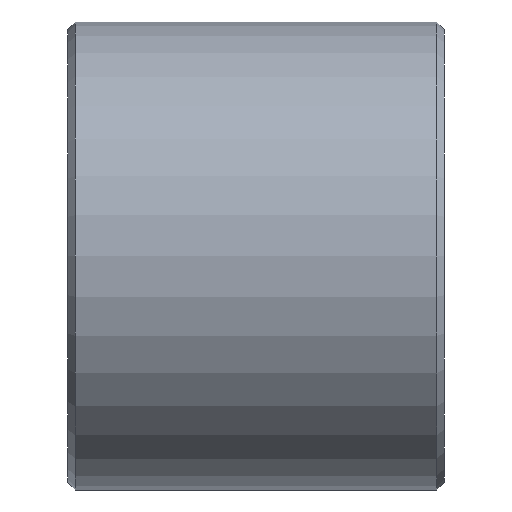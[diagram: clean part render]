
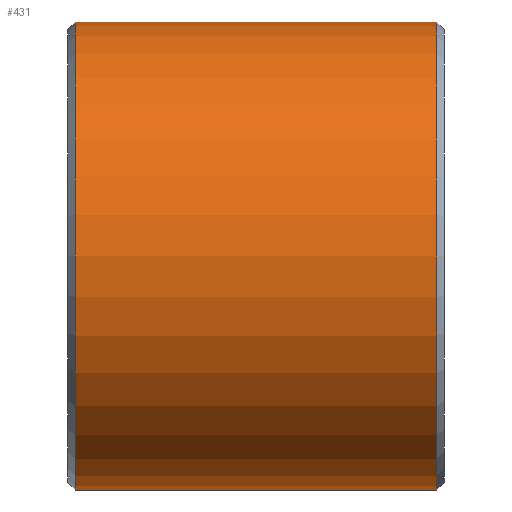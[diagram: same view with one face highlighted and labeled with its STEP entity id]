
A CAD part, left-side view. The second image highlights one B-rep face of the part: STEP entity #431.
In plain terms, the highlighted cylindrical face has radius 11.836 mm (diameter 23.673 mm), a full revolution.
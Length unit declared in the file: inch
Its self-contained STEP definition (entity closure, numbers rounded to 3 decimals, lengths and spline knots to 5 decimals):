
#19=FACE_BOUND('',#86,.T.);
#22=CYLINDRICAL_SURFACE('',#486,0.466);
#32=CIRCLE('',#484,0.466);
#33=CIRCLE('',#485,0.466);
#34=CIRCLE('',#487,0.466);
#35=CIRCLE('',#488,0.466);
#57=FACE_OUTER_BOUND('',#85,.T.);
#85=EDGE_LOOP('',(#337,#338,#339,#340,#341,#342));
#86=EDGE_LOOP('',(#343,#344,#345,#346,#347,#348));
#103=LINE('',#648,#143);
#112=LINE('',#671,#152);
#118=LINE('',#706,#158);
#143=VECTOR('',#515,0.3937);
#152=VECTOR('',#538,0.3937);
#158=VECTOR('',#580,0.466);
#180=ELLIPSE('',#460,0.53809,0.466);
#181=ELLIPSE('',#463,0.53809,0.466);
#182=ELLIPSE('',#465,0.53809,0.466);
#183=ELLIPSE('',#467,0.53809,0.466);
#184=VERTEX_POINT('',#638);
#185=VERTEX_POINT('',#639);
#188=VERTEX_POINT('',#647);
#190=VERTEX_POINT('',#653);
#192=VERTEX_POINT('',#659);
#194=VERTEX_POINT('',#665);
#204=VERTEX_POINT('',#699);
#205=VERTEX_POINT('',#701);
#206=VERTEX_POINT('',#705);
#207=VERTEX_POINT('',#707);
#223=EDGE_CURVE('',#184,#185,#180,.T.);
#227=EDGE_CURVE('',#185,#188,#103,.T.);
#230=EDGE_CURVE('',#188,#190,#181,.T.);
#233=EDGE_CURVE('',#190,#192,#182,.T.);
#236=EDGE_CURVE('',#194,#184,#183,.T.);
#239=EDGE_CURVE('',#192,#194,#112,.T.);
#253=EDGE_CURVE('',#204,#205,#32,.T.);
#254=EDGE_CURVE('',#205,#204,#33,.T.);
#255=EDGE_CURVE('',#205,#206,#118,.T.);
#256=EDGE_CURVE('',#207,#206,#34,.T.);
#257=EDGE_CURVE('',#206,#207,#35,.T.);
#337=ORIENTED_EDGE('',*,*,#253,.F.);
#338=ORIENTED_EDGE('',*,*,#254,.F.);
#339=ORIENTED_EDGE('',*,*,#255,.T.);
#340=ORIENTED_EDGE('',*,*,#256,.F.);
#341=ORIENTED_EDGE('',*,*,#257,.F.);
#342=ORIENTED_EDGE('',*,*,#255,.F.);
#343=ORIENTED_EDGE('',*,*,#233,.T.);
#344=ORIENTED_EDGE('',*,*,#239,.T.);
#345=ORIENTED_EDGE('',*,*,#236,.T.);
#346=ORIENTED_EDGE('',*,*,#223,.T.);
#347=ORIENTED_EDGE('',*,*,#227,.T.);
#348=ORIENTED_EDGE('',*,*,#230,.T.);
#431=ADVANCED_FACE('',(#57,#19),#22,.T.);
#460=AXIS2_PLACEMENT_3D('',#640,#508,#509);
#463=AXIS2_PLACEMENT_3D('',#654,#520,#521);
#465=AXIS2_PLACEMENT_3D('',#660,#526,#527);
#467=AXIS2_PLACEMENT_3D('',#666,#532,#533);
#484=AXIS2_PLACEMENT_3D('',#702,#574,#575);
#485=AXIS2_PLACEMENT_3D('',#703,#576,#577);
#486=AXIS2_PLACEMENT_3D('',#704,#578,#579);
#487=AXIS2_PLACEMENT_3D('',#708,#581,#582);
#488=AXIS2_PLACEMENT_3D('',#709,#583,#584);
#508=DIRECTION('center_axis',(0.,-0.866,0.5));
#509=DIRECTION('ref_axis',(0.,-0.5,-0.866));
#515=DIRECTION('',(0.,1.,0.));
#520=DIRECTION('center_axis',(0.,0.866,0.5));
#521=DIRECTION('ref_axis',(0.,0.5,-0.866));
#526=DIRECTION('center_axis',(0.,0.866,-0.5));
#527=DIRECTION('ref_axis',(0.,-0.5,-0.866));
#532=DIRECTION('center_axis',(0.,-0.866,-0.5));
#533=DIRECTION('ref_axis',(0.,0.5,-0.866));
#538=DIRECTION('',(0.,-1.,0.));
#574=DIRECTION('center_axis',(0.,-1.,0.));
#575=DIRECTION('ref_axis',(0.,0.,1.));
#576=DIRECTION('center_axis',(0.,-1.,0.));
#577=DIRECTION('ref_axis',(0.,0.,1.));
#578=DIRECTION('center_axis',(0.,-1.,0.));
#579=DIRECTION('ref_axis',(0.,0.,-1.));
#580=DIRECTION('',(0.,1.,0.));
#581=DIRECTION('center_axis',(0.,1.,0.));
#582=DIRECTION('ref_axis',(0.,0.,1.));
#583=DIRECTION('center_axis',(0.,1.,0.));
#584=DIRECTION('ref_axis',(0.,0.,1.));
#638=CARTESIAN_POINT('',(0.466,0.30341,0.));
#639=CARTESIAN_POINT('',(0.46186,0.3392,0.062));
#640=CARTESIAN_POINT('Origin',(0.,0.30341,0.));
#647=CARTESIAN_POINT('',(0.46186,0.4108,0.062));
#648=CARTESIAN_POINT('',(0.46186,0.375,0.062));
#653=CARTESIAN_POINT('',(0.466,0.44659,0.));
#654=CARTESIAN_POINT('Origin',(0.,0.44659,0.));
#659=CARTESIAN_POINT('',(0.46186,0.4108,-0.062));
#660=CARTESIAN_POINT('Origin',(0.,0.44659,0.));
#665=CARTESIAN_POINT('',(0.46186,0.3392,-0.062));
#666=CARTESIAN_POINT('Origin',(0.,0.30341,0.));
#671=CARTESIAN_POINT('',(0.46186,0.375,-0.062));
#699=CARTESIAN_POINT('',(0.,0.015,-0.466));
#701=CARTESIAN_POINT('',(0.,0.015,0.466));
#702=CARTESIAN_POINT('Origin',(0.,0.015,0.));
#703=CARTESIAN_POINT('Origin',(0.,0.015,0.));
#704=CARTESIAN_POINT('Origin',(0.,0.375,0.));
#705=CARTESIAN_POINT('',(0.,0.735,0.466));
#706=CARTESIAN_POINT('',(0.,0.375,0.466));
#707=CARTESIAN_POINT('',(0.,0.735,-0.466));
#708=CARTESIAN_POINT('Origin',(0.,0.735,0.));
#709=CARTESIAN_POINT('Origin',(0.,0.735,0.));
